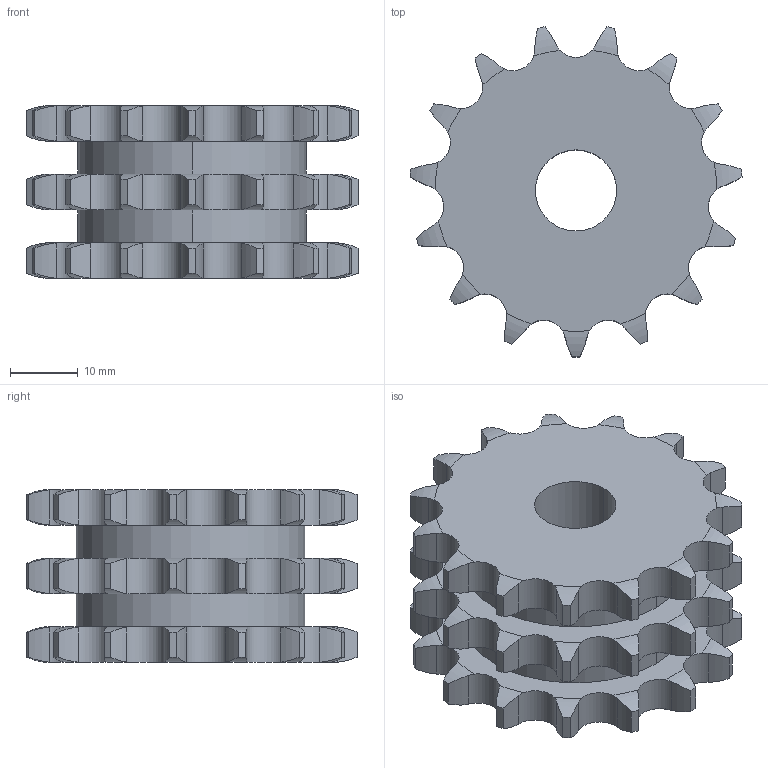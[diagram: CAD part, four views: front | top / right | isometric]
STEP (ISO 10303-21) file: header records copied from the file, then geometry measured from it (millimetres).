
FILE_DESCRIPTION((''),'2;1');
FILE_NAME('500-103-0015_PRT','2021-02-12T',('Brieden'),('Brieden'),'PRO/ENGINEER BY PARAMETRIC TECHNOLOGY CORPORATION, 2010160','PRO/ENGINEER BY PARAMETRIC TECHNOLOGY CORPORATION, 2010160','');
FILE_SCHEMA(('AUTOMOTIVE_DESIGN { 1 0 10303 214 1 1 1 1 }'));
Length unit declared in the file: millimetre
Products named in the file (1): 500-103-0015_PRT
Bounding box: 49.13 x 48.87 x 25.6 mm (x, y, z)
Volume: 28858.3 mm3; surface area: 10190.9 mm2
Topology: 1 solids, 1 shells, 282 faces, 828 edges, 552 vertices
Faces by surface type: cylinder 186, torus 90, plane 6
Entity records: 13385 total; most frequent: CARTESIAN_POINT 3758, ORIENTED_EDGE 1656, DIRECTION 1314, PRESENTATION_STYLE_ASSIGNMENT 829, STYLED_ITEM 829, CURVE_STYLE 828, EDGE_CURVE 828, AXIS2_PLACEMENT_3D 564
